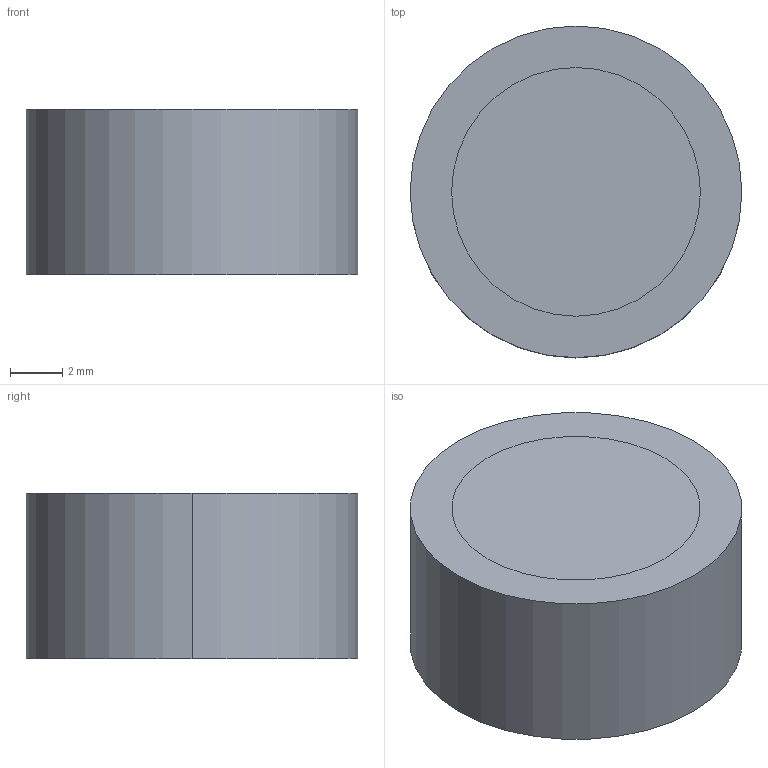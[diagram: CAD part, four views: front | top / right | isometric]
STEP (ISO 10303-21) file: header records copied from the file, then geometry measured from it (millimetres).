
FILE_DESCRIPTION (( 'STEP AP203' ), '1' );
FILE_NAME ('RBS5025.STEP', '2018-08-02T14:19:23', ( '' ), ( '' ), 'SwSTEP 2.0', 'SolidWorks 2015', '' );
FILE_SCHEMA (( 'CONFIG_CONTROL_DESIGN' ));
Length unit declared in the file: inch
Products named in the file (1): RBS5025
Bounding box: 12.7 x 12.7 x 6.35 mm (x, y, z)
Volume: 804.4 mm3; surface area: 886.7 mm2
Topology: 2 solids, 2 shells, 10 faces, 18 edges, 12 vertices
Faces by surface type: cylinder 6, plane 4
Entity records: 335 total; most frequent: DIRECTION 52, CARTESIAN_POINT 41, ORIENTED_EDGE 36, AXIS2_PLACEMENT_3D 23, EDGE_CURVE 18, VERTEX_POINT 12, CIRCLE 12, EDGE_LOOP 12
